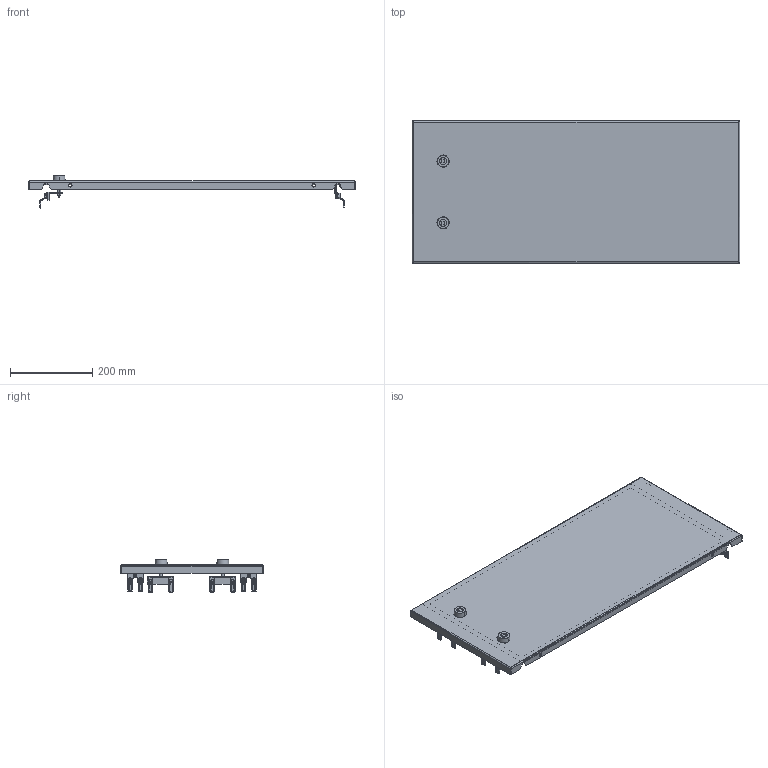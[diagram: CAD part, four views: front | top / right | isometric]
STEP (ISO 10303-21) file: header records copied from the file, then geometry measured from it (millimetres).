
FILE_DESCRIPTION(('CAx-IF Rec.Pracs.---Model Styling and Organization---1.2---2011-12-15','CAx-IF Rec.Pracs.---Geometric and Assembly Validation Properties---4.1---2014-06-16','CAx-IF Rec.Pracs.---PMI Polyline Presentation---2.0---2013-05-24'),'2;1');
FILE_NAME('R5CPMEM8350.stp','2021-05-06T03:56:13+03:00',(''),(''),'STEP Interface 4.4 by CT CoreTechnologie','3D_Evolution4.4 by CT CoreTechnologie','');
FILE_SCHEMA(('AUTOMOTIVE_DESIGN { 1 0 10303 214 1 1 1 1 }'));
Length unit declared in the file: millimetre
Products named in the file (17): R5CPMEM8350; M6 x 16-DIN 7991 ISR_thread; RB.0116.00.00.2_-00; AC00C485; RB.0687.00.00.1; AC00C745; MS737-1-1(1); MS737-1-1 Z_ ªàëâ; MS737-1-1 stop_fixed; RB.0556.00.00.3 ÑÁ_-06; AC00C061_AC00C061; AC00C266; Ì6õ12-A5100231_thread; RB.0556.00.01.1_-06; Ì6õ12-A5100231_straight; PF 7x14 R5PKEB_0350x0800; MS737-1-1(2)
Assembly tree (39 placements, depth 3):
  R5CPMEM8350
    M6 x 16-DIN 7991 ISR_thread  x8
    RB.0116.00.00.2_-00  x2
    AC00C485  x8
    RB.0687.00.00.1  x2
    AC00C745  x2
    MS737-1-1(1)
      MS737-1-1 Z_ ªàëâ
      MS737-1-1 stop_fixed
    RB.0556.00.00.3 ÑÁ_-06
      AC00C061_AC00C061  x3
      AC00C266  x2
      Ì6õ12-A5100231_thread  x2
      RB.0556.00.01.1_-06
      Ì6õ12-A5100231_straight
      PF 7x14 R5PKEB_0350x0800
    MS737-1-1(2)
      MS737-1-1 stop_fixed
      MS737-1-1 Z_ ªàëâ
Bounding box: 794 x 345 x 77.95 mm (x, y, z)
Surface area: 763229.3 mm2 (no closed solid volume)
Topology: 0 solids, 60 shells, 2328 faces, 6105 edges, 3879 vertices
Faces by surface type: bspline 868, cylinder 764, plane 696
Entity records: 35206 total; most frequent: CARTESIAN_POINT 11606, ORIENTED_EDGE 4952, DIRECTION 4601, EDGE_CURVE 2476, AXIS2_PLACEMENT_3D 1670, VERTEX_POINT 1599, VECTOR 1261, LINE 1261
